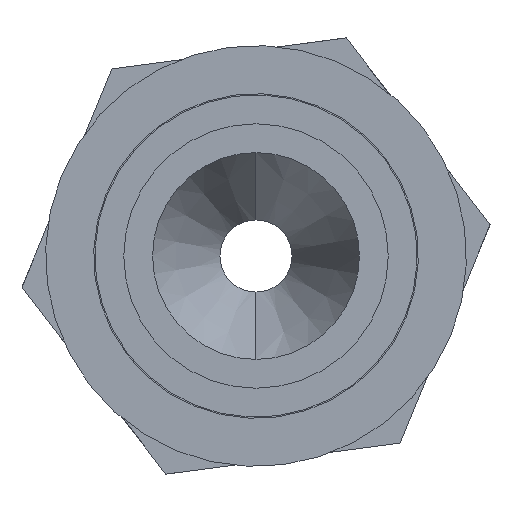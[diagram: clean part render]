
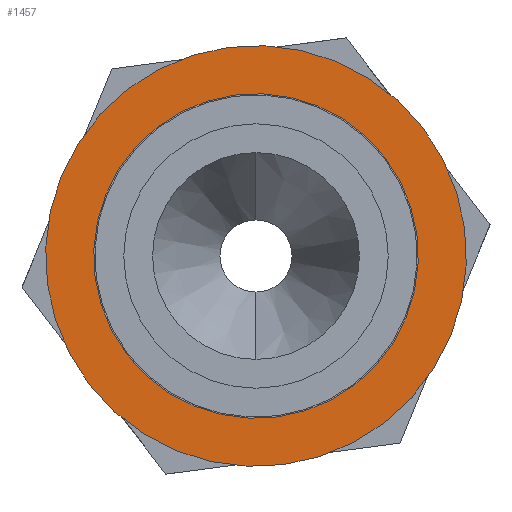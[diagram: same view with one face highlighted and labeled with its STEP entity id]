
A CAD part, left-side view. The second image highlights one B-rep face of the part: STEP entity #1457.
In plain terms, the highlighted planar face has unit normal (-1, 0, 0) as drawn and (1, 0, 0) by its records, which use the part's own axes.
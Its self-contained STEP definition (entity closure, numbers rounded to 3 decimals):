
#43 = CIRCLE ( 'NONE', #570, 6.75 ) ;
#79 = DIRECTION ( 'NONE',  ( 1., 0., 0. ) ) ;
#105 = ORIENTED_EDGE ( 'NONE', *, *, #1032, .T. ) ;
#107 = PLANE ( 'NONE',  #1664 ) ;
#123 = VERTEX_POINT ( 'NONE', #2688 ) ;
#145 = CARTESIAN_POINT ( 'NONE',  ( 6.7, 0., -6.75 ) ) ;
#157 = FACE_OUTER_BOUND ( 'NONE', #339, .T. ) ;
#256 = DIRECTION ( 'NONE',  ( 1., 0., 0. ) ) ;
#259 = DIRECTION ( 'NONE',  ( 0., 0., -1. ) ) ;
#297 = DIRECTION ( 'NONE',  ( 0., 0., -1. ) ) ;
#318 = AXIS2_PLACEMENT_3D ( 'NONE', #2819, #256, #2290 ) ;
#339 = EDGE_LOOP ( 'NONE', ( #1387, #105 ) ) ;
#423 = DIRECTION ( 'NONE',  ( 1., 0., 0. ) ) ;
#570 = AXIS2_PLACEMENT_3D ( 'NONE', #1048, #1327, #297 ) ;
#684 = VERTEX_POINT ( 'NONE', #1068 ) ;
#783 = CIRCLE ( 'NONE', #318, 8.75 ) ;
#829 = CARTESIAN_POINT ( 'NONE',  ( 6.7, 0., 0. ) ) ;
#856 = DIRECTION ( 'NONE',  ( 0., 0., -1. ) ) ;
#909 = FACE_BOUND ( 'NONE', #1423, .T. ) ;
#1032 = EDGE_CURVE ( 'NONE', #684, #1286, #1678, .T. ) ;
#1048 = CARTESIAN_POINT ( 'NONE',  ( 6.7, 0., 0. ) ) ;
#1068 = CARTESIAN_POINT ( 'NONE',  ( 6.7, 0., -8.75 ) ) ;
#1120 = EDGE_CURVE ( 'NONE', #1286, #684, #783, .T. ) ;
#1133 = DIRECTION ( 'NONE',  ( 1., 0., 0. ) ) ;
#1246 = EDGE_CURVE ( 'NONE', #1914, #123, #1862, .T. ) ;
#1286 = VERTEX_POINT ( 'NONE', #2521 ) ;
#1327 = DIRECTION ( 'NONE',  ( 1., 0., 0. ) ) ;
#1387 = ORIENTED_EDGE ( 'NONE', *, *, #1120, .T. ) ;
#1423 = EDGE_LOOP ( 'NONE', ( #1451, #1467 ) ) ;
#1451 = ORIENTED_EDGE ( 'NONE', *, *, #2477, .F. ) ;
#1457 = ADVANCED_FACE ( 'NONE', ( #157, #909 ), #107, .T. ) ;
#1467 = ORIENTED_EDGE ( 'NONE', *, *, #1246, .F. ) ;
#1513 = DIRECTION ( 'NONE',  ( 0., 0., -1. ) ) ;
#1664 = AXIS2_PLACEMENT_3D ( 'NONE', #1864, #1133, #259 ) ;
#1678 = CIRCLE ( 'NONE', #2246, 8.75 ) ;
#1862 = CIRCLE ( 'NONE', #2422, 6.75 ) ;
#1864 = CARTESIAN_POINT ( 'NONE',  ( 6.7, 0., 0. ) ) ;
#1914 = VERTEX_POINT ( 'NONE', #145 ) ;
#2246 = AXIS2_PLACEMENT_3D ( 'NONE', #829, #79, #1513 ) ;
#2290 = DIRECTION ( 'NONE',  ( 0., 0., -1. ) ) ;
#2422 = AXIS2_PLACEMENT_3D ( 'NONE', #2709, #423, #856 ) ;
#2477 = EDGE_CURVE ( 'NONE', #123, #1914, #43, .T. ) ;
#2521 = CARTESIAN_POINT ( 'NONE',  ( 6.7, 0., 8.75 ) ) ;
#2688 = CARTESIAN_POINT ( 'NONE',  ( 6.7, 0., 6.75 ) ) ;
#2709 = CARTESIAN_POINT ( 'NONE',  ( 6.7, 0., 0. ) ) ;
#2819 = CARTESIAN_POINT ( 'NONE',  ( 6.7, 0., 0. ) ) ;
